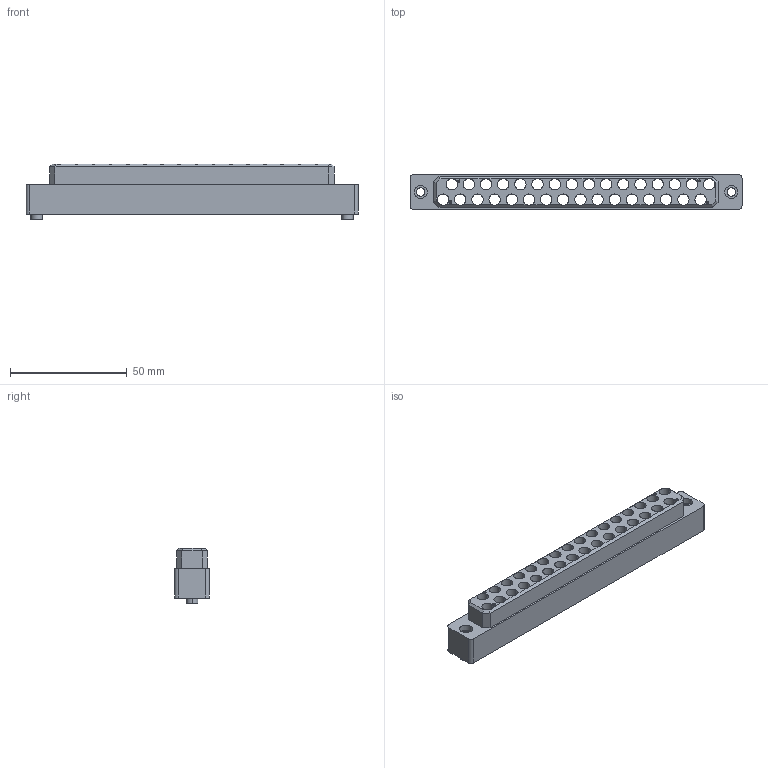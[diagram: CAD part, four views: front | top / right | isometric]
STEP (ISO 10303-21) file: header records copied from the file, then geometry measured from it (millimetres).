
FILE_DESCRIPTION (( 'STEP AP214' ), '1' );
FILE_NAME ('510104251_customer-model.STEP', '2013-12-05T17:00:32', ( 'VPC Computer Systems' ), ( 'Virginia Panel Corporation' ), 'SwSTEP 2.0', 'SolidWorks 2013', '' );
FILE_SCHEMA (( 'AUTOMOTIVE_DESIGN' ));
Length unit declared in the file: inch
Products named in the file (1): 510104251_customer-model
Bounding box: 142.49 x 14.99 x 24 mm (x, y, z)
Volume: 27891.5 mm3; surface area: 19991.2 mm2
Topology: 1 solids, 1 shells, 191 faces, 612 edges, 404 vertices
Faces by surface type: cylinder 80, plane 72, bspline 35, torus 4
Entity records: 8869 total; most frequent: CARTESIAN_POINT 3454, ORIENTED_EDGE 1224, DIRECTION 1024, EDGE_CURVE 612, VERTEX_POINT 404, AXIS2_PLACEMENT_3D 358, LINE 308, VECTOR 308
